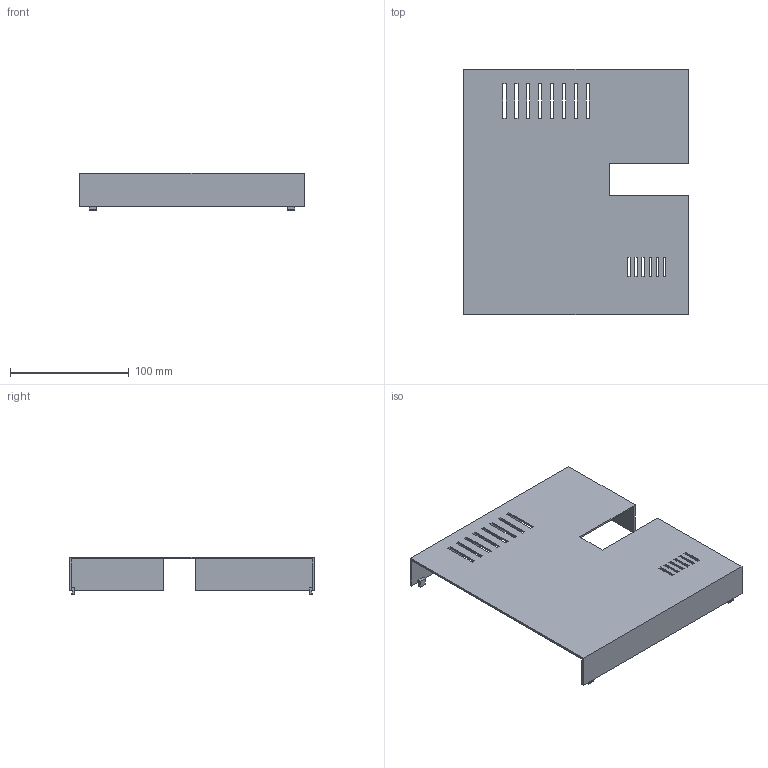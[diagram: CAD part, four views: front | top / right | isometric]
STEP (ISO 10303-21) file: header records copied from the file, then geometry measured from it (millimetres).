
FILE_DESCRIPTION(('Open CASCADE Model'),'2;1');
FILE_NAME('Open CASCADE Shape Model','2026-11-19T19:55:46',('Author'),( 'Open CASCADE'),'Open CASCADE STEP processor 8.0','Open CASCADE 8.0' ,'Unknown');
FILE_SCHEMA(('AUTOMOTIVE_DESIGN { 1 0 10303 214 1 1 1 1 }'));
Length unit declared in the file: millimetre
Products named in the file (1): Open CASCADE STEP translator 8.0 2
Bounding box: 188.85 x 206 x 31.7 mm (x, y, z)
Volume: 76735.3 mm3; surface area: 104954 mm2
Topology: 1 solids, 1 shells, 122 faces, 348 edges, 232 vertices
Faces by surface type: plane 122
Entity records: 8162 total; most frequent: CARTESIAN_POINT 1719, DIRECTION 970, LINE 724, VECTOR 724, ORIENTED_EDGE 696, PCURVE 696, DEFINITIONAL_REPRESENTATION 696, EDGE_CURVE 348
